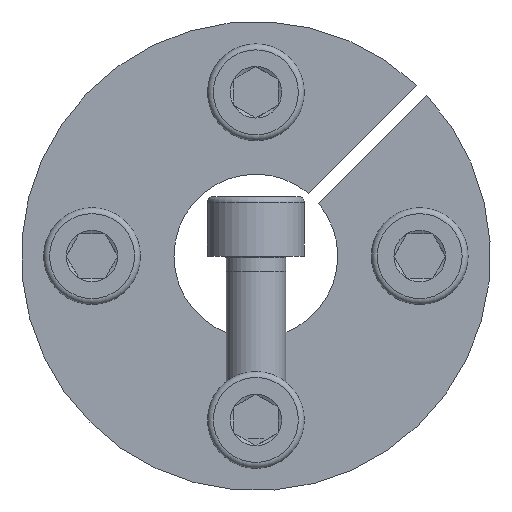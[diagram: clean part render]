
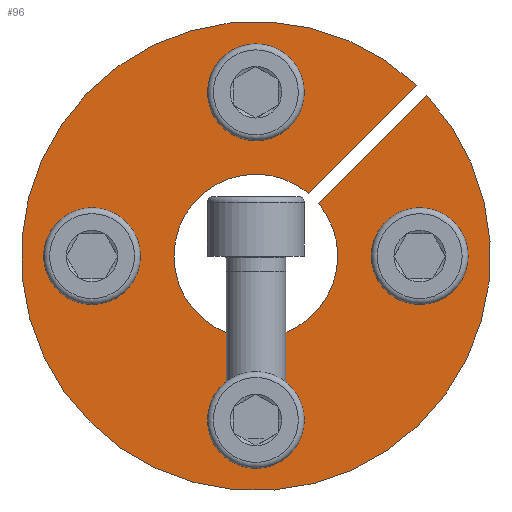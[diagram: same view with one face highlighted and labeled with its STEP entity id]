
A CAD part, front view. The second image highlights one B-rep face of the part: STEP entity #96.
In plain terms, the highlighted planar face has unit normal (0, -1, 0).
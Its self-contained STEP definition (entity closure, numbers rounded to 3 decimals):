
#96 = ADVANCED_FACE( '', ( #199, #200, #201, #202, #203 ), #204, .F. );
#199 = FACE_OUTER_BOUND( '', #305, .T. );
#200 = FACE_BOUND( '', #306, .T. );
#201 = FACE_BOUND( '', #307, .T. );
#202 = FACE_BOUND( '', #308, .T. );
#203 = FACE_BOUND( '', #309, .T. );
#204 = PLANE( '', #310 );
#305 = EDGE_LOOP( '', ( #500, #501, #502, #503 ) );
#306 = EDGE_LOOP( '', ( #504 ) );
#307 = EDGE_LOOP( '', ( #505 ) );
#308 = EDGE_LOOP( '', ( #506 ) );
#309 = EDGE_LOOP( '', ( #507 ) );
#310 = AXIS2_PLACEMENT_3D( '', #508, #509, #510 );
#500 = ORIENTED_EDGE( '', *, *, #610, .T. );
#501 = ORIENTED_EDGE( '', *, *, #653, .T. );
#502 = ORIENTED_EDGE( '', *, *, #655, .T. );
#503 = ORIENTED_EDGE( '', *, *, #646, .F. );
#504 = ORIENTED_EDGE( '', *, *, #640, .F. );
#505 = ORIENTED_EDGE( '', *, *, #596, .F. );
#506 = ORIENTED_EDGE( '', *, *, #599, .F. );
#507 = ORIENTED_EDGE( '', *, *, #634, .F. );
#508 = CARTESIAN_POINT( '', ( 0., 0., 31.5 ) );
#509 = DIRECTION( '', ( 0., 1., 0. ) );
#510 = DIRECTION( '', ( 1., 0., 0. ) );
#596 = EDGE_CURVE( '', #725, #725, #726, .T. );
#599 = EDGE_CURVE( '', #730, #730, #731, .T. );
#610 = EDGE_CURVE( '', #750, #748, #751, .T. );
#634 = EDGE_CURVE( '', #791, #791, #792, .T. );
#640 = EDGE_CURVE( '', #799, #799, #800, .T. );
#646 = EDGE_CURVE( '', #750, #806, #807, .T. );
#653 = EDGE_CURVE( '', #748, #814, #816, .T. );
#655 = EDGE_CURVE( '', #814, #806, #818, .T. );
#725 = VERTEX_POINT( '', #972 );
#726 = CIRCLE( '', #973, 4.5 );
#730 = VERTEX_POINT( '', #977 );
#731 = CIRCLE( '', #978, 4.5 );
#748 = VERTEX_POINT( '', #997 );
#750 = VERTEX_POINT( '', #1000 );
#751 = LINE( '', #1001, #1002 );
#791 = VERTEX_POINT( '', #1055 );
#792 = CIRCLE( '', #1056, 4.5 );
#799 = VERTEX_POINT( '', #1066 );
#800 = CIRCLE( '', #1067, 4.5 );
#806 = VERTEX_POINT( '', #1077 );
#807 = CIRCLE( '', #1078, 11. );
#814 = VERTEX_POINT( '', #1087 );
#816 = CIRCLE( '', #1090, 31.5 );
#818 = LINE( '', #1092, #1093 );
#972 = CARTESIAN_POINT( '', ( 22., 0., -4.5 ) );
#973 = AXIS2_PLACEMENT_3D( '', #1137, #1138, #1139 );
#977 = CARTESIAN_POINT( '', ( -4.5, 0., -22. ) );
#978 = AXIS2_PLACEMENT_3D( '', #1143, #1144, #1145 );
#997 = CARTESIAN_POINT( '', ( 21.556, 0., 22.97 ) );
#1000 = CARTESIAN_POINT( '', ( 7.039, 0., 8.453 ) );
#1001 = CARTESIAN_POINT( '', ( 7.039, 0., 8.453 ) );
#1002 = VECTOR( '', #1164, 1000. );
#1055 = CARTESIAN_POINT( '', ( -22., 0., 4.5 ) );
#1056 = AXIS2_PLACEMENT_3D( '', #1202, #1203, #1204 );
#1066 = CARTESIAN_POINT( '', ( 4.5, 0., 22. ) );
#1067 = AXIS2_PLACEMENT_3D( '', #1208, #1209, #1210 );
#1077 = CARTESIAN_POINT( '', ( 8.453, 0., 7.039 ) );
#1078 = AXIS2_PLACEMENT_3D( '', #1212, #1213, #1214 );
#1087 = CARTESIAN_POINT( '', ( 22.97, 0., 21.556 ) );
#1090 = AXIS2_PLACEMENT_3D( '', #1221, #1222, #1223 );
#1092 = CARTESIAN_POINT( '', ( 22.981, 0., 21.567 ) );
#1093 = VECTOR( '', #1224, 1000. );
#1137 = CARTESIAN_POINT( '', ( 22., 0., 0. ) );
#1138 = DIRECTION( '', ( 0., -1., 0. ) );
#1139 = DIRECTION( '', ( 0., 0., -1. ) );
#1143 = CARTESIAN_POINT( '', ( 0., 0., -22. ) );
#1144 = DIRECTION( '', ( 0., -1., 0. ) );
#1145 = DIRECTION( '', ( -1., 0., 0. ) );
#1164 = DIRECTION( '', ( 0.707, 0., 0.707 ) );
#1202 = CARTESIAN_POINT( '', ( -22., 0., 0. ) );
#1203 = DIRECTION( '', ( 0., -1., 0. ) );
#1204 = DIRECTION( '', ( 0., 0., 1. ) );
#1208 = CARTESIAN_POINT( '', ( 0., 0., 22. ) );
#1209 = DIRECTION( '', ( 0., -1., 0. ) );
#1210 = DIRECTION( '', ( 1., 0., 0. ) );
#1212 = CARTESIAN_POINT( '', ( 0., 0., 0. ) );
#1213 = DIRECTION( '', ( 0., -1., 0. ) );
#1214 = DIRECTION( '', ( 0., 0., -1. ) );
#1221 = CARTESIAN_POINT( '', ( 0., 0., 0. ) );
#1222 = DIRECTION( '', ( 0., -1., 0. ) );
#1223 = DIRECTION( '', ( 0., 0., -1. ) );
#1224 = DIRECTION( '', ( -0.707, 0., -0.707 ) );
